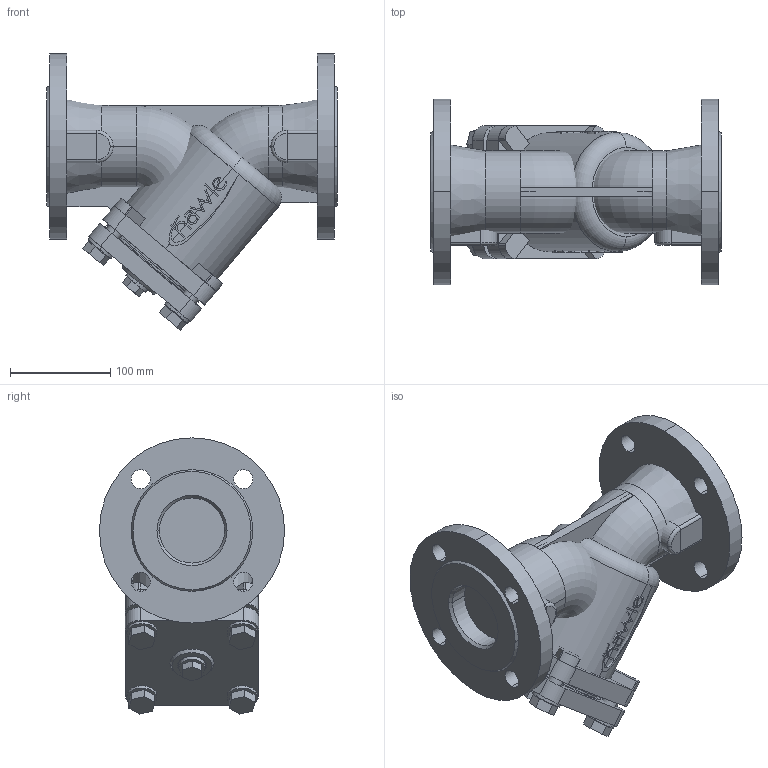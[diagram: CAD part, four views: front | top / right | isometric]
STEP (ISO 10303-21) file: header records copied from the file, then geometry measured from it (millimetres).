
FILE_DESCRIPTION(('STEP AP214'),'1');
FILE_NAME('S:/EK/USER/CAT6/3DHomepage/9910/9910-PN16-DN65.STP','2012-04-26T09:25:38',(' '),(' '),'Spatial InterOp 3D',' ',' ');
FILE_SCHEMA(('automotive_design'));
Length unit declared in the file: millimetre
Products named in the file (62): 3D-Objekt; 1; 2; 3; 4; 5
Bounding box: 290 x 185 x 275.94 mm (x, y, z)
Volume: 4195621.1 mm3; surface area: 600589.7 mm2
Topology: 62 solids, 62 shells, 479 faces, 1060 edges, 708 vertices
Faces by surface type: plane 268, cylinder 187, cone 14, torus 10
Entity records: 18683 total; most frequent: DIRECTION 2578, CARTESIAN_POINT 2309, ORIENTED_EDGE 2120, EDGE_CURVE 1060, AXIS2_PLACEMENT_3D 977, VERTEX_POINT 708, LINE 624, VECTOR 624
